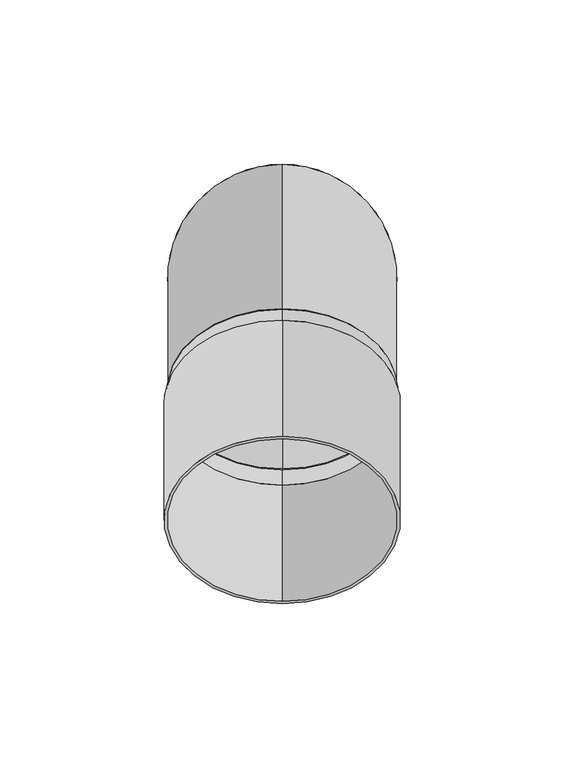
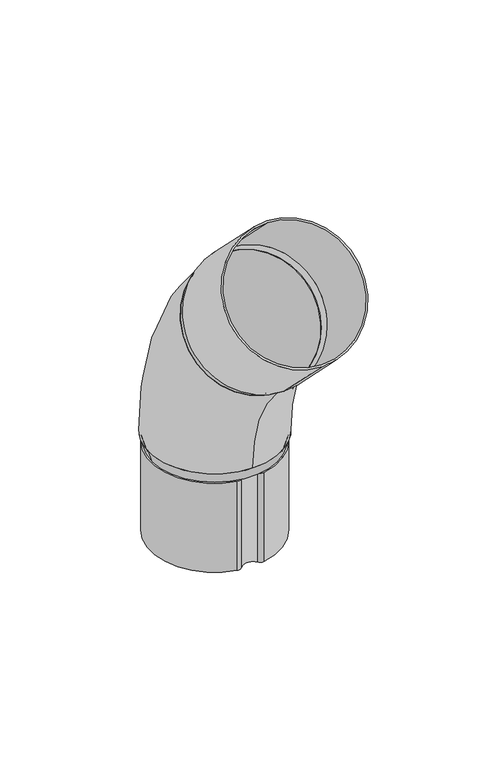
"""IFC4 building model written with IfcOpenShell, lengths in millimetres: proxy geometry, GROVIK_Downpipe_Elbow : N70_45°_Up."""

from ifc_helpers import new_model, si_unit, point, frame, frame_2d, origin, origin_with_axes, origin_2d, place, context, project, spatial, polyline, circle_curve, ellipse_curve, trimmed, segment, composite_curve, outline, extrude, source, transform, mapped, element, save
from ifc_brep_helpers import plane_surface, revolved_surface, advanced_brep


def generic_models_6a8bb70b(model_context):
    return source(origin(), model_context, "Body", "SolidModel", [
        advanced_brep(
        [(0.0, 35.0, 0.0), (0.0, -35.0, 0.0), (0.0, 34.0, 0.0), (0.0, -34.0, 0.0), (0.0, -8.9565217, 106.0885513), (0.0, -58.4434783, 56.5805607), (0.0, -9.6634783, 105.3812943), (0.0, -57.7365217, 57.2878177)],
        [
            (0, 1, circle_curve(frame((0.0, 0.0, 0.0), z_axis=(0.0, 0.0, -1.0), x_axis=(0.0, -1.0, 0.0)), 35.0)),
            (1, 0, circle_curve(frame((0.0, 0.0, 0.0), z_axis=(0.0, 0.0, -1.0), x_axis=(0.0, -1.0, 0.0)), 35.0)),
            (2, 3, circle_curve(frame((0.0, 0.0, 0.0), z_axis=(0.0, 0.0, 1.0), x_axis=(0.0, -1.0, 0.0)), 34.0)),
            (3, 2, circle_curve(frame((0.0, 0.0, 0.0), z_axis=(0.0, 0.0, 1.0), x_axis=(0.0, -1.0, 0.0)), 34.0)),
            (4, 5, circle_curve(frame((0.0, -33.7, 81.334556), z_axis=(0.0, -0.7072570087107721, 0.7069565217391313), x_axis=(0.0, -0.7069565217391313, -0.7072570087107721)), 35.0)),
            (5, 4, circle_curve(frame((0.0, -33.7, 81.334556), z_axis=(0.0, -0.7072570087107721, 0.7069565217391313), x_axis=(0.0, -0.7069565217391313, -0.7072570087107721)), 35.0)),
            (6, 7, circle_curve(frame((0.0, -33.7, 81.334556), z_axis=(0.0, 0.7072570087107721, -0.7069565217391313), x_axis=(0.0, -0.7069565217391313, -0.7072570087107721)), 34.0)),
            (7, 6, circle_curve(frame((0.0, -33.7, 81.334556), z_axis=(0.0, 0.7072570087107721, -0.7069565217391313), x_axis=(0.0, -0.7069565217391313, -0.7072570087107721)), 34.0)),
            (7, 3, circle_curve(frame((0.0, -115.0, 0.0), z_axis=(-1.0, 0.0, 0.0), x_axis=(0.0, 1.0, 0.0)), 81.0)),
            (2, 6, circle_curve(frame((0.0, -115.0, 0.0), z_axis=(1.0, 0.0, 0.0), x_axis=(0.0, 1.0, 0.0)), 149.0)),
            (5, 1, circle_curve(frame((0.0, -115.0, 0.0), z_axis=(-1.0, 0.0, 0.0), x_axis=(0.0, 1.0, 0.0)), 80.0)),
            (0, 4, circle_curve(frame((0.0, -115.0, 0.0), z_axis=(1.0, 0.0, 0.0), x_axis=(0.0, 1.0, 0.0)), 150.0)),
        ],
        [
            plane_surface(frame((0.0, 0.0, 0.0), z_axis=(0.0, 0.0, -1.0), x_axis=(1.0, 0.0, 0.0))),
            plane_surface(frame((0.0, -33.7, 81.334556), z_axis=(0.0, -0.7072570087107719, 0.7069565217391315), x_axis=(1.0, 0.0, 0.0))),
            revolved_surface(trimmed(ellipse_curve(frame((0.0, 0.0, 0.0), z_axis=(0.0, 0.0, 1.0), x_axis=(0.0, -1.0, 0.0)), 34.0, 34.0), [point((0.0, 34.0, 0.0))], [point((0.0, -34.0, 0.0))], True, "CARTESIAN"), (0.0, -115.0, 0.0), (1.0, 0.0, 0.0)),
            revolved_surface(trimmed(ellipse_curve(frame((0.0, 0.0, 0.0), z_axis=(0.0, 0.0, 1.0), x_axis=(0.0, -1.0, 0.0)), 34.0, 34.0), [point((0.0, -34.0, 0.0))], [point((0.0, 34.0, 0.0))], True, "CARTESIAN"), (0.0, -115.0, 0.0), (1.0, 0.0, 0.0)),
            revolved_surface(trimmed(ellipse_curve(frame((0.0, 0.0, 0.0), z_axis=(0.0, 0.0, -1.0), x_axis=(0.0, -1.0, 0.0)), 35.0, 35.0), [point((0.0, 35.0, 0.0))], [point((0.0, -35.0, 0.0))], True, "CARTESIAN"), (0.0, -115.0, 0.0), (1.0, 0.0, 0.0)),
            revolved_surface(trimmed(ellipse_curve(frame((0.0, 0.0, 0.0), z_axis=(0.0, 0.0, -1.0), x_axis=(0.0, -1.0, 0.0)), 35.0, 35.0), [point((0.0, -35.0, 0.0))], [point((0.0, 35.0, 0.0))], True, "CARTESIAN"), (0.0, -115.0, 0.0), (1.0, 0.0, 0.0)),
        ],
        [
            (0, [[1, 2], [3, 4]]),
            (1, [[5, 6], [7, 8]]),
            (2, [[9, -3, 10, -8]]),
            (3, [[-10, -4, -9, -7]]),
            (4, [[11, -1, 12, -6]]),
            (5, [[-12, -2, -11, -5]]),
        ],
    ),
        extrude(outline(composite_curve([segment(trimmed(circle_curve(origin_2d(), 36.0), [point((0.0, -35.9999999))], [point((0.0, 36.0))], False, "CARTESIAN"), True, "CONTINUOUS"), segment(trimmed(circle_curve(origin_2d(), 36.0), [point((0.0, 36.0))], [point((0.0, -35.9999999))], False, "CARTESIAN"), True, "CONTINUOUS")], self_intersect=False), holes=[composite_curve([segment(trimmed(circle_curve(origin_2d(), 35.0), [point((0.0, -35.0))], [point((0.0, 35.0))], True, "CARTESIAN"), True, "CONTINUOUS"), segment(trimmed(circle_curve(origin_2d(), 35.0), [point((0.0, 35.0))], [point((0.0, -35.0))], True, "CARTESIAN"), True, "CONTINUOUS")], self_intersect=False)]), frame((0.0, -37.9435421, 85.5762951), z_axis=(0.0, -0.707257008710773, 0.7069565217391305), x_axis=(1.0, 0.0, 0.0)), (0.0, 0.0, 1.0), 50.0),
        advanced_brep(
        [(-33.2, 0.0, -6.0), (33.2, 0.0, -6.0), (-32.2, 0.0, -6.0), (32.2, 0.0, -6.0), (-35.0, 0.0, 0.0), (35.0, 0.0, 0.0), (34.0, 0.0, 0.0), (-34.0, 0.0, 0.0)],
        [
            (0, 1, circle_curve(frame((0.0, 0.0, -6.0), z_axis=(0.0, 0.0, -1.0), x_axis=(-1.0, 0.0, 0.0)), 33.2)),
            (1, 0, circle_curve(frame((0.0, 0.0, -6.0), z_axis=(0.0, 0.0, -1.0), x_axis=(1.0, 0.0, 0.0)), 33.2)),
            (2, 3, circle_curve(frame((0.0, 0.0, -6.0), z_axis=(0.0, 0.0, 1.0), x_axis=(1.0, 0.0, 0.0)), 32.2)),
            (3, 2, circle_curve(frame((0.0, 0.0, -6.0), z_axis=(0.0, 0.0, 1.0), x_axis=(-1.0, 0.0, 0.0)), 32.2)),
            (4, 5, circle_curve(origin_with_axes(), 35.0)),
            (5, 4, circle_curve(frame((0.0, 0.0, 0.0), z_axis=(0.0, 0.0, 1.0), x_axis=(-1.0, 0.0, 0.0)), 35.0)),
            (6, 7, circle_curve(frame((0.0, 0.0, 0.0), z_axis=(0.0, 0.0, -1.0), x_axis=(1.0, 0.0, 0.0)), 34.0)),
            (7, 6, circle_curve(frame((0.0, 0.0, 0.0), z_axis=(0.0, 0.0, -1.0), x_axis=(-1.0, 0.0, 0.0)), 34.0)),
            (1, 5),
            (4, 0),
            (6, 3),
            (2, 7),
        ],
        [
            plane_surface(frame((0.0, 0.0, -6.0), z_axis=(0.0, 0.0, -1.0), x_axis=(0.0, 1.0, 0.0))),
            plane_surface(frame((0.0, 0.0, 0.0), z_axis=(0.0, 0.0, 1.0), x_axis=(0.0, 1.0, 0.0))),
            revolved_surface(polyline([(33.20000000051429, 0.0, -6.0), (35.0, 0.0, 0.0)]), (0.0, 0.0, -116.6666667), (0.0, 0.0, 1.0)),
            revolved_surface(polyline([(-33.20000000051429, 0.0, -6.0), (-35.0, 0.0, 0.0)]), (0.0, 0.0, -116.6666667), (0.0, 0.0, 1.0)),
            revolved_surface(polyline([(34.0, 0.0, 0.0), (32.19999999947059, 0.0, -6.0)]), (0.0, 0.0, -113.3333333), (0.0, 0.0, 1.0)),
        ],
        [
            (0, [[1, 2], [3, 4]]),
            (1, [[5, 6], [7, 8]]),
            (2, [[-2, 9, -5, 10]]),
            (3, [[-1, -10, -6, -9]]),
            (4, [[11, -3, 12, -7]]),
            (4, [[-11, -8, -12, -4]]),
        ],
    ),
        extrude(outline(composite_curve([segment(trimmed(circle_curve(frame_2d((-6.6504209, 30.1934466)), 3.0848069), [point((-7.2, 33.2289031))], [point((-4.2037022, 32.0721698))], False, "CARTESIAN"), True, "CONTINUOUS"), segment(trimmed(circle_curve(frame_2d((0.0, 35.3)), 5.3), [point((-4.2037022, 32.0721698))], [point((4.2058428, 32.0749594))], True, "CARTESIAN"), True, "CONTINUOUS"), segment(trimmed(circle_curve(frame_2d((6.6465812, 30.203401)), 3.0757007), [point((4.2058428, 32.0749594))], [point((7.2, 33.2289031))], False, "CARTESIAN"), True, "CONTINUOUS"), segment(trimmed(circle_curve(origin_2d(), 34.0), [point((7.2, 33.2289031))], [point((7.2, -33.2289031))], False, "CARTESIAN"), True, "CONTINUOUS"), segment(trimmed(circle_curve(frame_2d((6.6465812, -30.203401)), 3.0757007), [point((7.2, -33.2289031))], [point((4.2058428, -32.0749594))], False, "CARTESIAN"), True, "CONTINUOUS"), segment(trimmed(circle_curve(frame_2d((0.0, -35.3)), 5.3), [point((4.2058428, -32.0749594))], [point((-4.2037022, -32.0721698))], True, "CARTESIAN"), True, "CONTINUOUS"), segment(trimmed(circle_curve(frame_2d((-6.6504209, -30.1934466)), 3.0848069), [point((-4.2037022, -32.0721698))], [point((-7.2, -33.2289031))], False, "CARTESIAN"), True, "CONTINUOUS"), segment(trimmed(circle_curve(origin_2d(), 34.0), [point((-7.2, -33.2289031))], [point((-7.2, 33.2289031))], False, "CARTESIAN"), True, "CONTINUOUS")], self_intersect=False), holes=[composite_curve([segment(trimmed(circle_curve(origin_2d(), 33.0), [point((-7.1903364, 32.2071275))], [point((-7.1903364, -32.2071275))], True, "CARTESIAN"), True, "CONTINUOUS"), segment(trimmed(circle_curve(frame_2d((-6.6504209, -30.1934466)), 2.0848069), [point((-7.1903364, -32.2071275))], [point((-4.9968535, -31.4631452))], True, "CARTESIAN"), True, "CONTINUOUS"), segment(trimmed(circle_curve(frame_2d((0.0, -35.3)), 6.3), [point((-4.9968535, -31.4631452))], [point((4.999398, -31.4664612))], False, "CARTESIAN"), True, "CONTINUOUS"), segment(trimmed(circle_curve(frame_2d((6.6465812, -30.203401)), 2.0757007), [point((4.999398, -31.4664612))], [point((7.1790209, -32.2096516))], True, "CARTESIAN"), True, "CONTINUOUS"), segment(trimmed(circle_curve(origin_2d(), 33.0), [point((7.1790209, -32.2096516))], [point((7.1790209, 32.2096516))], True, "CARTESIAN"), True, "CONTINUOUS"), segment(trimmed(circle_curve(frame_2d((6.6465812, 30.203401)), 2.0757007), [point((7.1790209, 32.2096516))], [point((4.999398, 31.4664612))], True, "CARTESIAN"), True, "CONTINUOUS"), segment(trimmed(circle_curve(frame_2d((0.0, 35.3)), 6.3), [point((4.999398, 31.4664612))], [point((-4.9968535, 31.4631452))], False, "CARTESIAN"), True, "CONTINUOUS"), segment(trimmed(circle_curve(frame_2d((-6.6504209, 30.1934466)), 2.0848069), [point((-4.9968535, 31.4631452))], [point((-7.1903364, 32.2071275))], True, "CARTESIAN"), True, "CONTINUOUS")], self_intersect=False)]), frame((0.0, 0.0, -56.0), z_axis=(0.0, 0.0, 1.0), x_axis=(1.0, 0.0, 0.0)), (0.0, 0.0, 1.0), 50.0),
        advanced_brep(
        [(0.0, -58.4434783, 56.5805607), (0.0, -8.9565217, 106.0885513), (0.0, -57.7365217, 57.2878177), (0.0, -9.6634783, 105.3812943), (0.0, -63.3939768, 60.1150428), (0.0, -12.4931073, 111.0375474), (0.0, -13.2000638, 110.3302904), (0.0, -62.6870203, 60.8222998)],
        [
            (0, 1, circle_curve(frame((0.0, -33.7, 81.334556), z_axis=(0.0, 0.7072570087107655, -0.706956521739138), x_axis=(0.0, -0.7069565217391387, -0.7072570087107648)), 35.0)),
            (1, 0, circle_curve(frame((0.0, -33.7, 81.334556), z_axis=(0.0, 0.7072570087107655, -0.706956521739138), x_axis=(0.0, 0.7069565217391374, 0.7072570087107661)), 35.0)),
            (2, 3, circle_curve(frame((0.0, -33.7, 81.334556), z_axis=(0.0, -0.7072570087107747, 0.7069565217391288), x_axis=(0.0, 0.7069565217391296, 0.7072570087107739)), 34.0)),
            (3, 2, circle_curve(frame((0.0, -33.7, 81.334556), z_axis=(0.0, -0.7072570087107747, 0.7069565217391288), x_axis=(0.0, -0.7069565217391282, -0.7072570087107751)), 34.0)),
            (4, 5, circle_curve(frame((0.0, -37.9435421, 85.5762951), z_axis=(0.0, -0.7072570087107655, 0.706956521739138), x_axis=(0.0, 0.7069565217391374, 0.7072570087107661)), 36.0)),
            (5, 4, circle_curve(frame((0.0, -37.9435421, 85.5762951), z_axis=(0.0, -0.7072570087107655, 0.706956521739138), x_axis=(0.0, -0.7069565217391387, -0.7072570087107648)), 36.0)),
            (6, 7, circle_curve(frame((0.0, -37.9435421, 85.5762951), z_axis=(0.0, 0.7072570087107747, -0.7069565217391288), x_axis=(0.0, 0.7069565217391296, 0.7072570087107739)), 35.0)),
            (7, 6, circle_curve(frame((0.0, -37.9435421, 85.5762951), z_axis=(0.0, 0.7072570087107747, -0.7069565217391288), x_axis=(0.0, -0.7069565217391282, -0.7072570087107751)), 35.0)),
            (1, 5),
            (4, 0),
            (6, 3),
            (2, 7),
        ],
        [
            plane_surface(frame((0.0, -33.7, 81.334556), z_axis=(0.0, 0.7072570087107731, -0.7069565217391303), x_axis=(-1.0, 0.0, 0.0))),
            plane_surface(frame((0.0, -37.9435421, 85.5762951), z_axis=(0.0, -0.7072570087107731, 0.7069565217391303), x_axis=(-1.0, 0.0, 0.0))),
            revolved_surface(polyline([(0.0, -8.956521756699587, 106.08855124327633), (0.0, -12.493107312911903, 111.03754741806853)]), (0.0, 114.8239718, -67.1263136), (0.0, -0.7072570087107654, 0.7069565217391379)),
            revolved_surface(polyline([(0.0, -58.44347823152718, 56.58056068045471), (0.0, -63.39397684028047, 60.115042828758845)]), (0.0, 114.8239718, -67.1263136), (0.0, -0.7072570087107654, 0.7069565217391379)),
            revolved_surface(polyline([(0.0, -13.200063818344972, 110.33029042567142), (0.0, -9.663478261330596, 105.38129425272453)]), (0.0, 110.5804298, -62.8845744), (0.0, -0.7072570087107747, 0.7069565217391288)),
        ],
        [
            (0, [[1, 2], [3, 4]]),
            (1, [[5, 6], [7, 8]]),
            (2, [[-2, 9, -5, 10]]),
            (3, [[-1, -10, -6, -9]]),
            (4, [[11, -3, 12, -7]]),
            (4, [[-11, -8, -12, -4]]),
        ],
    ),
    ])


if __name__ == "__main__":
    model = new_model("IFC4")
    model_context = context("Model", 3, world=origin())
    ifc_project = project(units=[si_unit("LENGTHUNIT", "METRE", prefix="MILLI")], contexts=[model_context])
    site = spatial("IfcSite", under=ifc_project)
    building = spatial("IfcBuilding", under=site)
    placement = place(None, origin())
    generic_models_shape = generic_models_6a8bb70b(model_context)
    element("IfcBuildingElementProxy", 1, Name="GROVIK_Downpipe_Elbow : N70_45°_Up", ObjectType="GROVIK_Downpipe_Elbow : N70_45°_Up", at=placement, inside=building, context=model_context, shape_type="MappedRepresentation", body=[
        mapped(generic_models_shape, transform((0.0, 0.0, 0.0), x_axis=(1.0, 0.0, 0.0), y_axis=(0.0, 1.0, 0.0), z_axis=(0.0, 0.0, 1.0))),
    ])
    save(model, "model.ifc")
